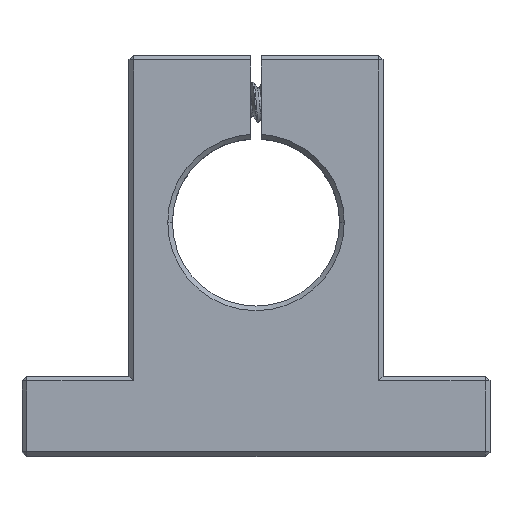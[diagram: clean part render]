
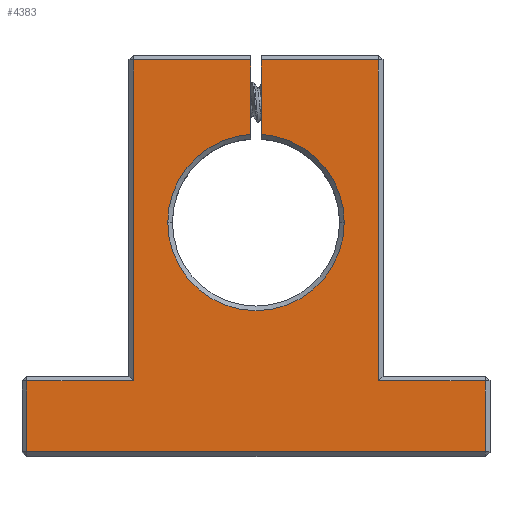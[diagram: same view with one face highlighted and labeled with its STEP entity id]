
A CAD part, top view. The second image highlights one B-rep face of the part: STEP entity #4383.
In plain terms, the highlighted planar face has unit normal (0, 0, 1).
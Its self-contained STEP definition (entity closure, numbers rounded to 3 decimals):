
#48 = CARTESIAN_POINT ( 'NONE',  ( -13.2, 35., 24. ) ) ;
#62 = EDGE_CURVE ( 'NONE', #3966, #3728, #6860, .T. ) ;
#83 = LINE ( 'NONE', #6152, #7365 ) ;
#166 = VECTOR ( 'NONE', #5819, 1000. ) ;
#418 = DIRECTION ( 'NONE',  ( 0., 1., 0. ) ) ;
#508 = LINE ( 'NONE', #4345, #2096 ) ;
#633 = ORIENTED_EDGE ( 'NONE', *, *, #2693, .T. ) ;
#637 = CARTESIAN_POINT ( 'NONE',  ( 18.3, 59.3, 24. ) ) ;
#822 = VECTOR ( 'NONE', #3668, 1000. ) ;
#884 = ORIENTED_EDGE ( 'NONE', *, *, #1594, .T. ) ;
#924 = VECTOR ( 'NONE', #3075, 1000. ) ;
#1014 = CARTESIAN_POINT ( 'NONE',  ( -0.75, 59.3, 24. ) ) ;
#1087 = ORIENTED_EDGE ( 'NONE', *, *, #2408, .T. ) ;
#1157 = LINE ( 'NONE', #5209, #2968 ) ;
#1160 = LINE ( 'NONE', #5173, #7159 ) ;
#1193 = VERTEX_POINT ( 'NONE', #2089 ) ;
#1236 = CIRCLE ( 'NONE', #7216, 13.2 ) ;
#1269 = CARTESIAN_POINT ( 'NONE',  ( -34.3, 0., 24. ) ) ;
#1286 = VERTEX_POINT ( 'NONE', #7609 ) ;
#1340 = LINE ( 'NONE', #3007, #8655 ) ;
#1474 = ORIENTED_EDGE ( 'NONE', *, *, #3160, .T. ) ;
#1484 = CARTESIAN_POINT ( 'NONE',  ( 0., 35., 24. ) ) ;
#1565 = PLANE ( 'NONE',  #5646 ) ;
#1594 = EDGE_CURVE ( 'NONE', #2498, #3966, #3483, .T. ) ;
#1616 = ORIENTED_EDGE ( 'NONE', *, *, #7883, .T. ) ;
#1632 = VERTEX_POINT ( 'NONE', #5954 ) ;
#1955 = CARTESIAN_POINT ( 'NONE',  ( -18.3, 59.3, 24. ) ) ;
#2029 = EDGE_CURVE ( 'NONE', #1632, #4742, #7018, .T. ) ;
#2030 = DIRECTION ( 'NONE',  ( 0., 1., 0. ) ) ;
#2089 = CARTESIAN_POINT ( 'NONE',  ( 0.75, 59.3, 24. ) ) ;
#2096 = VECTOR ( 'NONE', #7785, 1000. ) ;
#2172 = EDGE_CURVE ( 'NONE', #8755, #5185, #1157, .T. ) ;
#2184 = DIRECTION ( 'NONE',  ( 1., 0., 0. ) ) ;
#2197 = AXIS2_PLACEMENT_3D ( 'NONE', #7539, #3424, #8231 ) ;
#2262 = DIRECTION ( 'NONE',  ( 1., 0., 0. ) ) ;
#2385 = CARTESIAN_POINT ( 'NONE',  ( 0.75, 59.3, 24. ) ) ;
#2408 = EDGE_CURVE ( 'NONE', #8723, #5645, #83, .T. ) ;
#2450 = CARTESIAN_POINT ( 'NONE',  ( 0., 35., 24. ) ) ;
#2498 = VERTEX_POINT ( 'NONE', #3448 ) ;
#2546 = EDGE_LOOP ( 'NONE', ( #2906, #7044, #3841, #7406, #5247, #7267, #633, #884, #2699, #1616, #5481, #5833, #1087, #1474 ) ) ;
#2693 = EDGE_CURVE ( 'NONE', #5588, #2498, #6522, .T. ) ;
#2699 = ORIENTED_EDGE ( 'NONE', *, *, #62, .T. ) ;
#2744 = LINE ( 'NONE', #2385, #924 ) ;
#2906 = ORIENTED_EDGE ( 'NONE', *, *, #3962, .T. ) ;
#2968 = VECTOR ( 'NONE', #418, 1000. ) ;
#3007 = CARTESIAN_POINT ( 'NONE',  ( 19., 11.3, 24. ) ) ;
#3032 = EDGE_CURVE ( 'NONE', #8069, #8723, #1340, .T. ) ;
#3075 = DIRECTION ( 'NONE',  ( -1., 0., 0. ) ) ;
#3142 = DIRECTION ( 'NONE',  ( 1., 0., 0. ) ) ;
#3160 = EDGE_CURVE ( 'NONE', #5645, #1193, #2744, .T. ) ;
#3314 = EDGE_CURVE ( 'NONE', #5185, #5588, #508, .T. ) ;
#3324 = VERTEX_POINT ( 'NONE', #4400 ) ;
#3424 = DIRECTION ( 'NONE',  ( 0., 0., -1. ) ) ;
#3448 = CARTESIAN_POINT ( 'NONE',  ( -18.3, 11.3, 24. ) ) ;
#3483 = LINE ( 'NONE', #3854, #6915 ) ;
#3490 = EDGE_CURVE ( 'NONE', #4742, #8755, #1236, .T. ) ;
#3668 = DIRECTION ( 'NONE',  ( 0., -1., 0. ) ) ;
#3728 = VERTEX_POINT ( 'NONE', #3849 ) ;
#3770 = CARTESIAN_POINT ( 'NONE',  ( -34.3, 11.3, 24. ) ) ;
#3801 = CIRCLE ( 'NONE', #8264, 13.2 ) ;
#3841 = ORIENTED_EDGE ( 'NONE', *, *, #2029, .T. ) ;
#3849 = CARTESIAN_POINT ( 'NONE',  ( -34.3, 0.7, 24. ) ) ;
#3854 = CARTESIAN_POINT ( 'NONE',  ( -35., 11.3, 24. ) ) ;
#3962 = EDGE_CURVE ( 'NONE', #1193, #3324, #7443, .T. ) ;
#3966 = VERTEX_POINT ( 'NONE', #3770 ) ;
#4032 = DIRECTION ( 'NONE',  ( 0., -1., 0. ) ) ;
#4315 = CARTESIAN_POINT ( 'NONE',  ( 0., 35., 24. ) ) ;
#4345 = CARTESIAN_POINT ( 'NONE',  ( -19., 59.3, 24. ) ) ;
#4383 = ADVANCED_FACE ( 'NONE', ( #4579 ), #1565, .T. ) ;
#4400 = CARTESIAN_POINT ( 'NONE',  ( 0.75, 48.179, 24. ) ) ;
#4575 = DIRECTION ( 'NONE',  ( -1., 0., 0. ) ) ;
#4579 = FACE_OUTER_BOUND ( 'NONE', #2546, .T. ) ;
#4605 = CARTESIAN_POINT ( 'NONE',  ( 18.3, 11.3, 24. ) ) ;
#4742 = VERTEX_POINT ( 'NONE', #48 ) ;
#4744 = CARTESIAN_POINT ( 'NONE',  ( 34.3, 11.3, 24. ) ) ;
#5045 = VECTOR ( 'NONE', #4032, 1000. ) ;
#5173 = CARTESIAN_POINT ( 'NONE',  ( 34.3, 12., 24. ) ) ;
#5185 = VERTEX_POINT ( 'NONE', #1014 ) ;
#5209 = CARTESIAN_POINT ( 'NONE',  ( -0.75, 60., 24. ) ) ;
#5247 = ORIENTED_EDGE ( 'NONE', *, *, #2172, .T. ) ;
#5481 = ORIENTED_EDGE ( 'NONE', *, *, #8623, .T. ) ;
#5588 = VERTEX_POINT ( 'NONE', #1955 ) ;
#5645 = VERTEX_POINT ( 'NONE', #637 ) ;
#5646 = AXIS2_PLACEMENT_3D ( 'NONE', #4315, #6374, #2262 ) ;
#5819 = DIRECTION ( 'NONE',  ( 0., -1., 0. ) ) ;
#5833 = ORIENTED_EDGE ( 'NONE', *, *, #3032, .T. ) ;
#5954 = CARTESIAN_POINT ( 'NONE',  ( 13.2, 35., 24. ) ) ;
#6152 = CARTESIAN_POINT ( 'NONE',  ( 18.3, 60., 24. ) ) ;
#6298 = DIRECTION ( 'NONE',  ( 0., 0., -1. ) ) ;
#6374 = DIRECTION ( 'NONE',  ( 0., 0., 1. ) ) ;
#6399 = DIRECTION ( 'NONE',  ( -1., 0., 0. ) ) ;
#6480 = CARTESIAN_POINT ( 'NONE',  ( 35., 0.7, 24. ) ) ;
#6521 = DIRECTION ( 'NONE',  ( 0., 1., 0. ) ) ;
#6522 = LINE ( 'NONE', #8479, #822 ) ;
#6734 = VECTOR ( 'NONE', #7866, 1000. ) ;
#6825 = EDGE_CURVE ( 'NONE', #3324, #1632, #3801, .T. ) ;
#6860 = LINE ( 'NONE', #1269, #5045 ) ;
#6915 = VECTOR ( 'NONE', #4575, 1000. ) ;
#7018 = CIRCLE ( 'NONE', #2197, 13.2 ) ;
#7044 = ORIENTED_EDGE ( 'NONE', *, *, #6825, .T. ) ;
#7159 = VECTOR ( 'NONE', #6521, 1000. ) ;
#7216 = AXIS2_PLACEMENT_3D ( 'NONE', #2450, #7248, #3142 ) ;
#7248 = DIRECTION ( 'NONE',  ( 0., 0., -1. ) ) ;
#7267 = ORIENTED_EDGE ( 'NONE', *, *, #3314, .T. ) ;
#7316 = CARTESIAN_POINT ( 'NONE',  ( -0.75, 48.179, 24. ) ) ;
#7365 = VECTOR ( 'NONE', #2030, 1000. ) ;
#7406 = ORIENTED_EDGE ( 'NONE', *, *, #3490, .T. ) ;
#7443 = LINE ( 'NONE', #7844, #166 ) ;
#7539 = CARTESIAN_POINT ( 'NONE',  ( 0., 35., 24. ) ) ;
#7609 = CARTESIAN_POINT ( 'NONE',  ( 34.3, 0.7, 24. ) ) ;
#7785 = DIRECTION ( 'NONE',  ( -1., 0., 0. ) ) ;
#7844 = CARTESIAN_POINT ( 'NONE',  ( 0.75, 47.477, 24. ) ) ;
#7866 = DIRECTION ( 'NONE',  ( 1., 0., 0. ) ) ;
#7883 = EDGE_CURVE ( 'NONE', #3728, #1286, #8773, .T. ) ;
#8069 = VERTEX_POINT ( 'NONE', #4744 ) ;
#8231 = DIRECTION ( 'NONE',  ( 1., 0., 0. ) ) ;
#8264 = AXIS2_PLACEMENT_3D ( 'NONE', #1484, #6298, #2184 ) ;
#8479 = CARTESIAN_POINT ( 'NONE',  ( -18.3, 12., 24. ) ) ;
#8623 = EDGE_CURVE ( 'NONE', #1286, #8069, #1160, .T. ) ;
#8655 = VECTOR ( 'NONE', #6399, 1000. ) ;
#8723 = VERTEX_POINT ( 'NONE', #4605 ) ;
#8755 = VERTEX_POINT ( 'NONE', #7316 ) ;
#8773 = LINE ( 'NONE', #6480, #6734 ) ;
